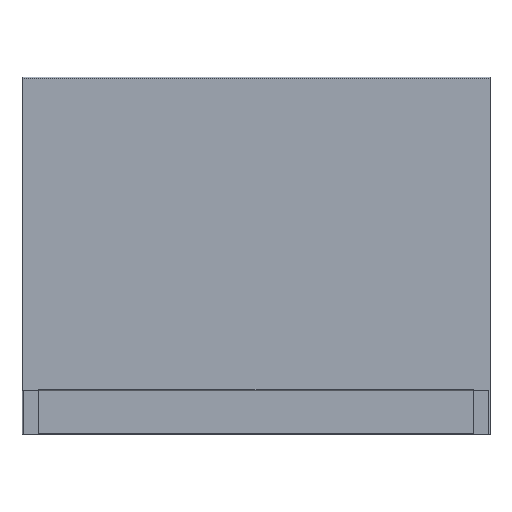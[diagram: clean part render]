
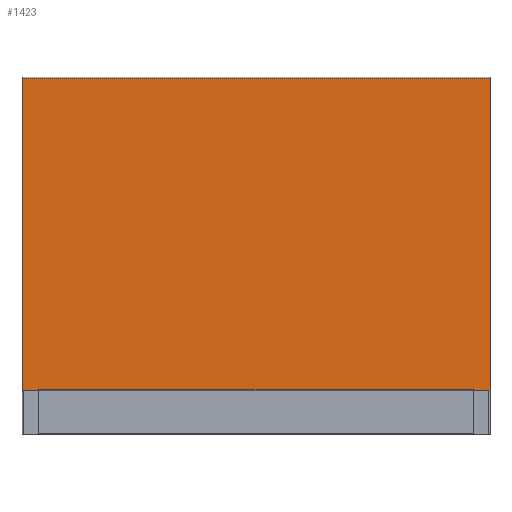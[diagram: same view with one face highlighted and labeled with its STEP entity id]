
A CAD part, front view. The second image highlights one B-rep face of the part: STEP entity #1423.
In plain terms, the highlighted planar face has unit normal (0, -1, 0).
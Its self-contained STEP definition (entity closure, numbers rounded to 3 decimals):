
#532=CARTESIAN_POINT('',(-395.,1.,82.));
#533=VERTEX_POINT('',#532);
#808=CARTESIAN_POINT('',(-395.1,1.,82.));
#809=VERTEX_POINT('',#808);
#810=CARTESIAN_POINT('',(-395.1,1.,82.));
#811=DIRECTION('',(1.,0.,-0.));
#812=VECTOR('',#811,0.1);
#813=LINE('',#810,#812);
#814=EDGE_CURVE('',#809,#533,#813,.T.);
#838=CARTESIAN_POINT('',(-395.1,1.,80.));
#839=VERTEX_POINT('',#838);
#848=CARTESIAN_POINT('',(-425.,1.,80.));
#849=VERTEX_POINT('',#848);
#850=CARTESIAN_POINT('',(-395.1,1.,80.));
#851=DIRECTION('',(-1.,0.,0.));
#852=VECTOR('',#851,29.9);
#853=LINE('',#850,#852);
#854=EDGE_CURVE('',#839,#849,#853,.T.);
#1004=CARTESIAN_POINT('',(425.,1.,80.));
#1005=VERTEX_POINT('',#1004);
#1006=CARTESIAN_POINT('',(395.1,1.,80.));
#1007=VERTEX_POINT('',#1006);
#1008=CARTESIAN_POINT('',(425.,1.,80.));
#1009=DIRECTION('',(-1.,0.,0.));
#1010=VECTOR('',#1009,29.9);
#1011=LINE('',#1008,#1010);
#1012=EDGE_CURVE('',#1005,#1007,#1011,.T.);
#1344=CARTESIAN_POINT('',(-425.,1.,648.));
#1345=VERTEX_POINT('',#1344);
#1353=CARTESIAN_POINT('',(425.,1.,648.));
#1354=VERTEX_POINT('',#1353);
#1355=CARTESIAN_POINT('',(425.,1.,648.));
#1356=DIRECTION('',(-1.,0.,0.));
#1357=VECTOR('',#1356,850.);
#1358=LINE('',#1355,#1357);
#1359=EDGE_CURVE('',#1354,#1345,#1358,.T.);
#1372=CARTESIAN_POINT('',(425.,1.,648.));
#1373=DIRECTION('',(0.,1.,0.));
#1374=DIRECTION('',(0.,0.,1.));
#1375=AXIS2_PLACEMENT_3D('',#1372,#1373,#1374);
#1376=PLANE('',#1375);
#1377=ORIENTED_EDGE('',*,*,#854,.F.);
#1378=CARTESIAN_POINT('',(-395.1,1.,80.));
#1379=DIRECTION('',(0.,0.,1.));
#1380=VECTOR('',#1379,2.);
#1381=LINE('',#1378,#1380);
#1382=EDGE_CURVE('',#839,#809,#1381,.T.);
#1383=ORIENTED_EDGE('',*,*,#1382,.T.);
#1384=ORIENTED_EDGE('',*,*,#814,.T.);
#1385=CARTESIAN_POINT('',(395.,1.,82.));
#1386=VERTEX_POINT('',#1385);
#1387=CARTESIAN_POINT('',(-395.,1.,82.));
#1388=DIRECTION('',(1.,0.,-0.));
#1389=VECTOR('',#1388,790.);
#1390=LINE('',#1387,#1389);
#1391=EDGE_CURVE('',#533,#1386,#1390,.T.);
#1392=ORIENTED_EDGE('',*,*,#1391,.T.);
#1393=CARTESIAN_POINT('',(395.1,1.,82.));
#1394=VERTEX_POINT('',#1393);
#1395=CARTESIAN_POINT('',(395.,1.,82.));
#1396=DIRECTION('',(1.,0.,-0.));
#1397=VECTOR('',#1396,0.1);
#1398=LINE('',#1395,#1397);
#1399=EDGE_CURVE('',#1386,#1394,#1398,.T.);
#1400=ORIENTED_EDGE('',*,*,#1399,.T.);
#1401=CARTESIAN_POINT('',(395.1,1.,82.));
#1402=DIRECTION('',(0.,0.,-1.));
#1403=VECTOR('',#1402,2.);
#1404=LINE('',#1401,#1403);
#1405=EDGE_CURVE('',#1394,#1007,#1404,.T.);
#1406=ORIENTED_EDGE('',*,*,#1405,.T.);
#1407=ORIENTED_EDGE('',*,*,#1012,.F.);
#1408=CARTESIAN_POINT('',(425.,1.,648.));
#1409=DIRECTION('',(0.,0.,-1.));
#1410=VECTOR('',#1409,568.);
#1411=LINE('',#1408,#1410);
#1412=EDGE_CURVE('',#1354,#1005,#1411,.T.);
#1413=ORIENTED_EDGE('',*,*,#1412,.F.);
#1414=ORIENTED_EDGE('',*,*,#1359,.T.);
#1415=CARTESIAN_POINT('',(-425.,1.,648.));
#1416=DIRECTION('',(0.,0.,-1.));
#1417=VECTOR('',#1416,568.);
#1418=LINE('',#1415,#1417);
#1419=EDGE_CURVE('',#1345,#849,#1418,.T.);
#1420=ORIENTED_EDGE('',*,*,#1419,.T.);
#1421=EDGE_LOOP('',(#1377,#1383,#1384,#1392,#1400,#1406,#1407,#1413,#1414,#1420));
#1422=FACE_BOUND('',#1421,.T.);
#1423=ADVANCED_FACE('',(#1422),#1376,.F.);
